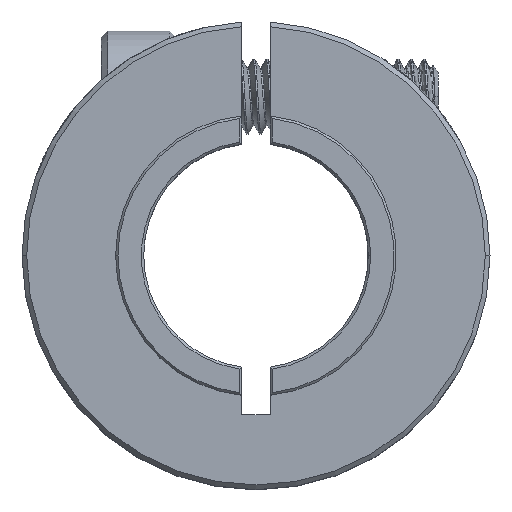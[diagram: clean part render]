
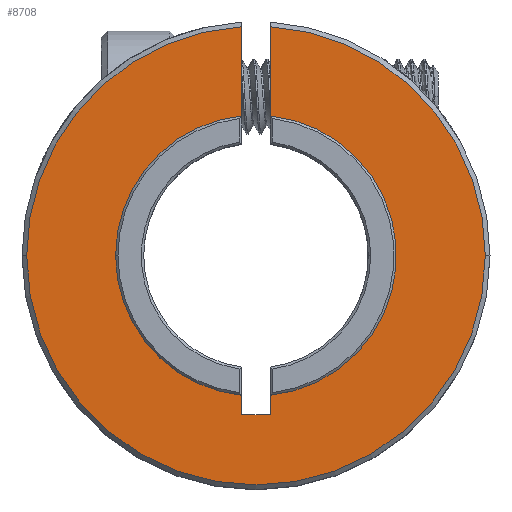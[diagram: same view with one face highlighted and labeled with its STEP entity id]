
A CAD part, top view. The second image highlights one B-rep face of the part: STEP entity #8708.
In plain terms, the highlighted planar face has unit normal (0, 0, 1).
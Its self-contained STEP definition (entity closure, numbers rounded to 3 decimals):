
#250 = DIRECTION ( 'NONE',  ( -1., 0., 0. ) ) ;
#303 = VERTEX_POINT ( 'NONE', #5175 ) ;
#400 = CARTESIAN_POINT ( 'NONE',  ( 0., 0., 4.5 ) ) ;
#587 = ORIENTED_EDGE ( 'NONE', *, *, #15125, .F. ) ;
#684 = DIRECTION ( 'NONE',  ( 0., 1., 0. ) ) ;
#969 = EDGE_CURVE ( 'NONE', #15331, #16101, #11872, .T. ) ;
#1327 = VECTOR ( 'NONE', #250, 1000. ) ;
#1554 = ORIENTED_EDGE ( 'NONE', *, *, #7076, .T. ) ;
#2075 = VERTEX_POINT ( 'NONE', #8915 ) ;
#2106 = DIRECTION ( 'NONE',  ( 1., 0., 0. ) ) ;
#2430 = EDGE_CURVE ( 'NONE', #14177, #18425, #8972, .T. ) ;
#2722 = DIRECTION ( 'NONE',  ( 0., 0., 1. ) ) ;
#3041 = PLANE ( 'NONE',  #8035 ) ;
#3190 = CARTESIAN_POINT ( 'NONE',  ( 0., 0., 4.5 ) ) ;
#3267 = ORIENTED_EDGE ( 'NONE', *, *, #3698, .T. ) ;
#3433 = ORIENTED_EDGE ( 'NONE', *, *, #969, .T. ) ;
#3698 = EDGE_CURVE ( 'NONE', #16101, #11282, #10527, .T. ) ;
#3745 = DIRECTION ( 'NONE',  ( 1., 0., 0. ) ) ;
#3809 = AXIS2_PLACEMENT_3D ( 'NONE', #12124, #5432, #17343 ) ;
#3859 = VECTOR ( 'NONE', #20038, 1000. ) ;
#4293 = CARTESIAN_POINT ( 'NONE',  ( 0., 0., 4.5 ) ) ;
#4729 = DIRECTION ( 'NONE',  ( 1., 0., 0. ) ) ;
#4770 = ORIENTED_EDGE ( 'NONE', *, *, #2430, .T. ) ;
#5036 = CARTESIAN_POINT ( 'NONE',  ( -7.5, 0., 4.5 ) ) ;
#5099 = ORIENTED_EDGE ( 'NONE', *, *, #6806, .F. ) ;
#5175 = CARTESIAN_POINT ( 'NONE',  ( 0.75, 7.462, 4.5 ) ) ;
#5432 = DIRECTION ( 'NONE',  ( 0., 0., 1. ) ) ;
#5834 = ORIENTED_EDGE ( 'NONE', *, *, #16924, .T. ) ;
#5999 = LINE ( 'NONE', #20475, #7321 ) ;
#6466 = VERTEX_POINT ( 'NONE', #5036 ) ;
#6600 = CARTESIAN_POINT ( 'NONE',  ( -0.75, 0., 4.5 ) ) ;
#6806 = EDGE_CURVE ( 'NONE', #2075, #303, #12316, .T. ) ;
#6821 = LINE ( 'NONE', #6600, #19691 ) ;
#7076 = EDGE_CURVE ( 'NONE', #9336, #14177, #14422, .T. ) ;
#7089 = CARTESIAN_POINT ( 'NONE',  ( 0.75, -8.5, 4.5 ) ) ;
#7230 = DIRECTION ( 'NONE',  ( 0., 0., 1. ) ) ;
#7321 = VECTOR ( 'NONE', #21787, 1000. ) ;
#7389 = CARTESIAN_POINT ( 'NONE',  ( -0.75, 0., 4.5 ) ) ;
#7608 = VECTOR ( 'NONE', #684, 1000. ) ;
#7726 = DIRECTION ( 'NONE',  ( 1., 0., 0. ) ) ;
#8035 = AXIS2_PLACEMENT_3D ( 'NONE', #3190, #11427, #4729 ) ;
#8287 = AXIS2_PLACEMENT_3D ( 'NONE', #15772, #7230, #15636 ) ;
#8344 = CARTESIAN_POINT ( 'NONE',  ( 12.25, 0., 4.5 ) ) ;
#8685 = AXIS2_PLACEMENT_3D ( 'NONE', #400, #12184, #2106 ) ;
#8708 = ADVANCED_FACE ( 'NONE', ( #16514 ), #3041, .T. ) ;
#8907 = DIRECTION ( 'NONE',  ( 0., 0., 1. ) ) ;
#8915 = CARTESIAN_POINT ( 'NONE',  ( 0.75, -7.462, 4.5 ) ) ;
#8972 = CIRCLE ( 'NONE', #8685, 12.25 ) ;
#9300 = CARTESIAN_POINT ( 'NONE',  ( -0.75, 7.462, 4.5 ) ) ;
#9336 = VERTEX_POINT ( 'NONE', #13405 ) ;
#9379 = DIRECTION ( 'NONE',  ( 0., 0., 1. ) ) ;
#9518 = CARTESIAN_POINT ( 'NONE',  ( 0.75, 12.227, 4.5 ) ) ;
#9717 = AXIS2_PLACEMENT_3D ( 'NONE', #11040, #2722, #7726 ) ;
#10527 = LINE ( 'NONE', #7389, #7608 ) ;
#11040 = CARTESIAN_POINT ( 'NONE',  ( 0., 0., 4.5 ) ) ;
#11282 = VERTEX_POINT ( 'NONE', #16404 ) ;
#11427 = DIRECTION ( 'NONE',  ( 0., 0., 1. ) ) ;
#11448 = EDGE_CURVE ( 'NONE', #16981, #13959, #6821, .T. ) ;
#11499 = CIRCLE ( 'NONE', #3809, 7.5 ) ;
#11601 = DIRECTION ( 'NONE',  ( 0., -1., 0. ) ) ;
#11872 = LINE ( 'NONE', #13878, #1327 ) ;
#12124 = CARTESIAN_POINT ( 'NONE',  ( 0., 0., 4.5 ) ) ;
#12184 = DIRECTION ( 'NONE',  ( 0., 0., 1. ) ) ;
#12246 = EDGE_CURVE ( 'NONE', #18425, #303, #5999, .T. ) ;
#12316 = CIRCLE ( 'NONE', #8287, 7.5 ) ;
#12416 = CARTESIAN_POINT ( 'NONE',  ( -0.75, 12.227, 4.5 ) ) ;
#12809 = CIRCLE ( 'NONE', #21314, 7.5 ) ;
#13210 = CARTESIAN_POINT ( 'NONE',  ( 0.75, 0., 4.5 ) ) ;
#13405 = CARTESIAN_POINT ( 'NONE',  ( -12.25, 0., 4.5 ) ) ;
#13878 = CARTESIAN_POINT ( 'NONE',  ( 0., -8.5, 4.5 ) ) ;
#13946 = ORIENTED_EDGE ( 'NONE', *, *, #11448, .F. ) ;
#13959 = VERTEX_POINT ( 'NONE', #9300 ) ;
#14044 = CARTESIAN_POINT ( 'NONE',  ( 0., 0., 4.5 ) ) ;
#14177 = VERTEX_POINT ( 'NONE', #8344 ) ;
#14366 = EDGE_CURVE ( 'NONE', #13959, #6466, #11499, .T. ) ;
#14422 = CIRCLE ( 'NONE', #9717, 12.25 ) ;
#15125 = EDGE_CURVE ( 'NONE', #15331, #2075, #15746, .T. ) ;
#15331 = VERTEX_POINT ( 'NONE', #7089 ) ;
#15636 = DIRECTION ( 'NONE',  ( 1., 0., 0. ) ) ;
#15743 = ORIENTED_EDGE ( 'NONE', *, *, #21421, .F. ) ;
#15746 = LINE ( 'NONE', #13210, #3859 ) ;
#15772 = CARTESIAN_POINT ( 'NONE',  ( 0., 0., 4.5 ) ) ;
#16079 = DIRECTION ( 'NONE',  ( 1., 0., 0. ) ) ;
#16101 = VERTEX_POINT ( 'NONE', #21394 ) ;
#16404 = CARTESIAN_POINT ( 'NONE',  ( -0.75, -7.462, 4.5 ) ) ;
#16514 = FACE_OUTER_BOUND ( 'NONE', #21070, .T. ) ;
#16924 = EDGE_CURVE ( 'NONE', #16981, #9336, #20455, .T. ) ;
#16981 = VERTEX_POINT ( 'NONE', #12416 ) ;
#17343 = DIRECTION ( 'NONE',  ( 1., 0., 0. ) ) ;
#18425 = VERTEX_POINT ( 'NONE', #9518 ) ;
#19187 = ORIENTED_EDGE ( 'NONE', *, *, #14366, .F. ) ;
#19691 = VECTOR ( 'NONE', #11601, 1000. ) ;
#20038 = DIRECTION ( 'NONE',  ( 0., 1., 0. ) ) ;
#20404 = AXIS2_PLACEMENT_3D ( 'NONE', #14044, #8907, #3745 ) ;
#20455 = CIRCLE ( 'NONE', #20404, 12.25 ) ;
#20475 = CARTESIAN_POINT ( 'NONE',  ( 0.75, 0., 4.5 ) ) ;
#20563 = ORIENTED_EDGE ( 'NONE', *, *, #12246, .T. ) ;
#21070 = EDGE_LOOP ( 'NONE', ( #13946, #5834, #1554, #4770, #20563, #5099, #587, #3433, #3267, #15743, #19187 ) ) ;
#21314 = AXIS2_PLACEMENT_3D ( 'NONE', #4293, #9379, #16079 ) ;
#21394 = CARTESIAN_POINT ( 'NONE',  ( -0.75, -8.5, 4.5 ) ) ;
#21421 = EDGE_CURVE ( 'NONE', #6466, #11282, #12809, .T. ) ;
#21787 = DIRECTION ( 'NONE',  ( 0., -1., 0. ) ) ;
